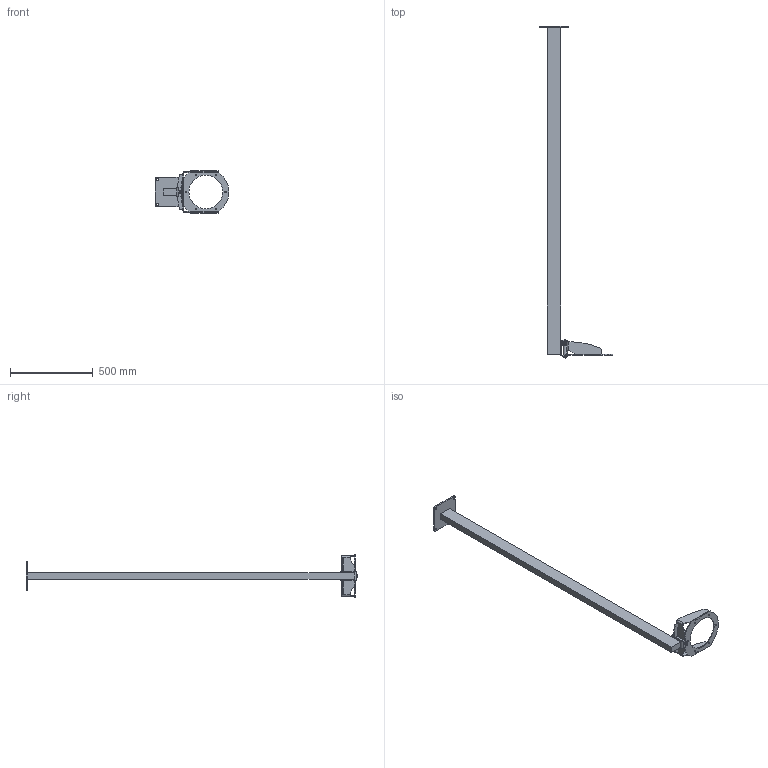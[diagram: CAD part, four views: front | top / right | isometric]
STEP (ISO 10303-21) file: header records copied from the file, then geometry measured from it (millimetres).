
FILE_DESCRIPTION((''),'2;1');
FILE_NAME('139681','2019-08-23T09:50:06',('Tomas Bellgran'),(''),'CREO PARAMETRIC BY PTC INC, 2018260','CREO PARAMETRIC BY PTC INC, 2018260','');
FILE_SCHEMA(('AUTOMOTIVE_DESIGN { 1 0 10303 214 1 1 1 1 }'));
Length unit declared in the file: millimetre
Products named in the file (13): 100-6315-1; 143254; 100-6300-03; 137389; 137238; 137240; 100-6305-2; 137245; 138518; 137199; 100-6306; 9908480; 139681
Assembly tree (13 placements, depth 3):
  139681
    137389
      100-6315-1
      143254
      100-6300-03
    137199
      137238
      137240
      100-6305-2
      137245
      138518  x2
    100-6306
    9908480
Bounding box: 447.75 x 2011.5 x 258 mm (x, y, z)
Volume: 7059989.6 mm3; surface area: 761358.5 mm2
Topology: 11 solids, 15 shells, 222 faces, 546 edges, 349 vertices
Faces by surface type: plane 107, cylinder 81, cone 26, bspline 4, torus 2, sphere 2
Entity records: 13931 total; most frequent: CARTESIAN_POINT 3188, DIRECTION 1323, ORIENTED_EDGE 1008, PROPERTY_DEFINITION 745, REPRESENTATION 730, PROPERTY_DEFINITION_REPRESENTATION 730, DESCRIPTIVE_REPRESENTATION_ITEM 571, GENERAL_PROPERTY 553
